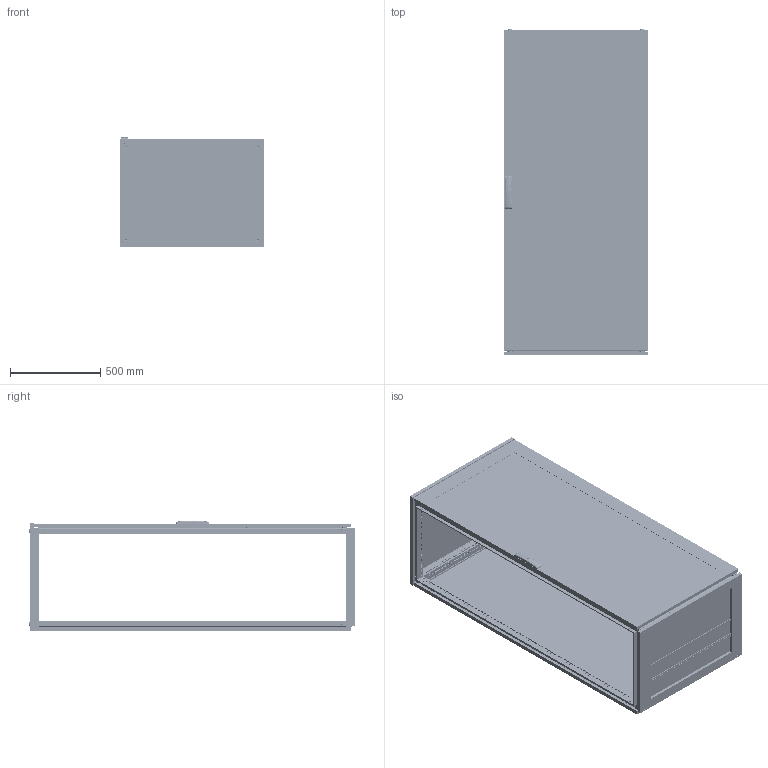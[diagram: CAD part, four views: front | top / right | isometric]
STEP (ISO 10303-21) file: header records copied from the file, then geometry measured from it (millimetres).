
FILE_DESCRIPTION (( 'STEP AP203' ), '1' );
FILE_NAME ('R5CQEN1886AX.STEP', '2025-05-07T12:00:11', ( '' ), ( '' ), 'SwSTEP 2.0', 'SolidWorks 2022', '' );
FILE_SCHEMA (( 'CONFIG_CONTROL_DESIGN' ));
Length unit declared in the file: millimetre
Products named in the file (66): R5NKTB - Assem simple_H=1800 R5NKTB86; AC00C446-R; Glass CPTE_1800x0800; M6x10 DIN 7500 M Torx cl.5.8 Zinc_straight; RB.2456.00.00.0 simple_-02; Square cap 20x20 simple; TPA.08.0083.00.00.0 simple; RB.0054.01.01.0 simple_-18; RB.2457.00.00.0 СБ simple_-20; M6x10 DIN 7500 E HX cl.5.8 Zinc_straight; TPA.08.0139.00.03.0; RB.2696.00.00.0 simple; RB.1633.00.02.0 simple_-02; RB.1633.00.01.0 simple_-03; 4.8x13 DIN 7981 PH Zinc_straight; M12x16 ISO 7380-1 HX cl.4,8 Zinc_straight; RB.1867.01.01.0 simple_-13; RB.0562.01.01.0 simple_-13; M8x12 AC00C476 cl.8,8 Zinc_stright; RB.1957.00.00.0 simple_-11; Pin 4x16 DIN 7 AISI 303 (A1) simple; R5NCRE-Assem simple_R5NCRE1880; RB.0562.00.00.0 СБ simple_-13; RB.2702.00.00.0 simple; М6х12 A5100231_straight; 7 DIN 6799 Zinc; PF 7,5x15 CPE simple_1800x0800; TPA.08.0139.00.01.0 simple; Glue CPTE simple_1800x0800; M6x10 DIN 912 HX cl.8,8 Zinc_straight; M6 MGR-MKO-0625 simple_Thread; R5CQEN1886AX; RB.1867.01.00.0 СБ simple_-28 ; 7 DIN 6799 Zinc simple; RB.2052.00.00.0 СБ simple_-18; M6x15 Erickson cl.4,8 Zinc; RB.2969.00.00.0 СБ simple; ATOS Traction guide ILY03.35; RB.2172.00.00.1 simple; RB.2755.00.00.0 СБ simple_-20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
Assembly tree (173 placements, depth 5):
  R5CQEN1886AX
    R5NCPTE - Assem simple_R5NCPTE1880
      RB.0562.00.00.0 СБ simple_-13
        RB.0562.01.00.0 СБ simple_-13
          RB.0562.01.01.0 simple_-13
          М6х12 A5100231_straight  x7
          RB.2702.00.00.0 simple  x4
          PF 7,5x15 CPE simple_1800x0800
          Glass CPTE_1800x0800
          Glue CPTE simple_1800x0800
        Square cap 20x20 simple  x2
        M6x15 Erickson cl.4,8 Zinc  x2
        RB.0528.00.01.0 simple_-04  x2
        ATOS Traction guide ILY03.35  x4
        RB.2357.00.00.0 simple_-05
        RB.2680.00.00.0 СБ simple
          TPA.08.0139.00.01.0 simple
          RB.2680.00.01.0 simple
          RB.2680.00.02.0 simple  x2
        TPA.08.0139.00.03.0  x2
        M6 DIN 985 cl.6,0 Zinc_straight  x4
        4,0x16 F Torx Zinc (ART 88200)_thread  x2
        RB.0528.04.00.0 СБ simple  x2
          RB.0528.04.01.0 simple
          Pressing stud FH-M6-12_M6x12mm
      M6x10 DIN 912 HX cl.8,8 Zinc_straight  x8
      4.8x13 DIN 7981 PH Zinc_straight
      7 DIN 6799 Zinc simple  x4
      RB.2968.00.00.0 simple  x4
      RB.2969.00.00.0 СБ simple  x4
        RB.2969.00.01.0 simple
        Pin 4x16 DIN 7 AISI 303 (A1) simple
        M6 MGR-MKO-0625 simple_Thread
      AC00C446-R
      RB.2696.00.00.0 simple  x4
      7 DIN 6799 Zinc  x4
    R5NCRE-Assem simple_R5NCRE1880
      RB.2052.00.00.0 СБ simple_-18
        RB.2052.01.00.0 СБ simple_-18
          RB.0054.01.01.0 simple_-18
          М6х12 A5100231_straight  x4
        PF 7x14 CRE simple_1800x0800
      RB.2172.00.00.1 simple  x8
      M6x10 DIN 7500 E HX cl.5.8 Zinc_straight  x8
      M6x10 DIN 7500 M Torx cl.5.8 Zinc_straight  x8
    R5NKMN - Assem simple_R5NKMN18 (800х600)
      RB.2528.00.00.0 simple_-04  x4
    R5NKTB - Assem simple_H=1800 R5NKTB86
      RB.2499.00.00.0 СБ simple_-20
        RB.2499.01.00.0 СБ simple_-19
          RB.1633.00.01.0 simple_-03  x2
          RB.1633.00.02.0 simple_-02  x2
          PF 5x10 KTB simple_800x600
        RB.2457.00.00.0 СБ simple_-20
          RB.2455.00.00.0 simple_-03  x2
          RB.2456.00.00.0 simple_-02  x2
          TPA.08.0084.00.00.0 simple  x2
          TPA.08.0083.00.00.0 simple  x2
          M8x12 AC00C476 cl.8,8 Zinc_stright  x4
        RB.1957.00.00.0 simple_-10  x2
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Bounding box: 800 x 1813.3 x 614.74 mm (x, y, z)
Volume: 16828652.1 mm3; surface area: 14598810 mm2
Topology: 176 solids, 192 shells, 22113 faces, 62699 edges, 41291 vertices
Faces by surface type: plane 12323, cylinder 8249, cone 704, bspline 435, torus 368, sphere 34
Entity records: 223084 total; most frequent: CARTESIAN_POINT 55141, ORIENTED_EDGE 33270, DIRECTION 31753, EDGE_CURVE 16661, VERTEX_POINT 11030, AXIS2_PLACEMENT_3D 10665, LINE 10423, VECTOR 10423
